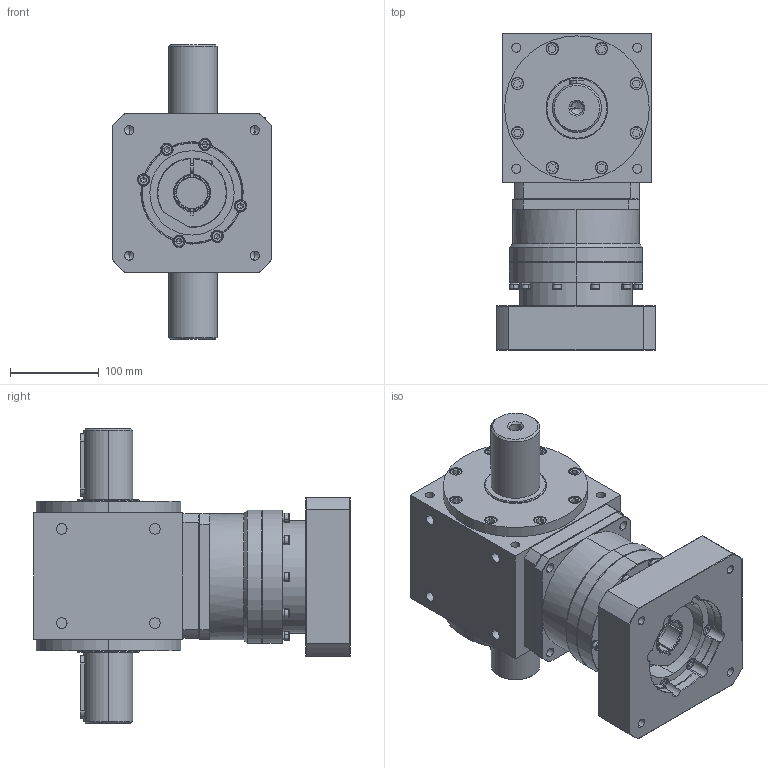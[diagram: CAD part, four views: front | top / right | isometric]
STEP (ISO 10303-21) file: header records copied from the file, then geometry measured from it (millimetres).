
FILE_DESCRIPTION (( 'STEP AP203' ), '1' );
FILE_NAME ('AAW165AS-L1-2P 35-114.3-200-M12.STEP', '2024-12-14T09:17:11', ( '' ), ( '' ), 'SwSTEP 2.0', 'SolidWorks 2021', '' );
FILE_SCHEMA (( 'CONFIG_CONTROL_DESIGN' ));
Length unit declared in the file: millimetre
Products named in the file (3): AAW165AS-L1-2P 35-114.3-200-M12; VRB-142-L1-S2-P1 35-114.3-200-M12; AAW165AS-2P
Assembly tree (2 placements, depth 2):
  AAW165AS-L1-2P 35-114.3-200-M12
    AAW165AS-2P
    VRB-142-L1-S2-P1 35-114.3-200-M12
Bounding box: 180 x 356.5 x 332 mm (x, y, z)
Volume: 8660975.2 mm3; surface area: 578117.4 mm2
Topology: 40 solids, 40 shells, 1398 faces, 3315 edges, 2077 vertices
Faces by surface type: plane 649, cylinder 512, cone 195, torus 38, bspline 4
Entity records: 40839 total; most frequent: CARTESIAN_POINT 7753, DIRECTION 7280, ORIENTED_EDGE 6490, EDGE_CURVE 3245, AXIS2_PLACEMENT_3D 2816, VERTEX_POINT 2077, LINE 1648, VECTOR 1648
